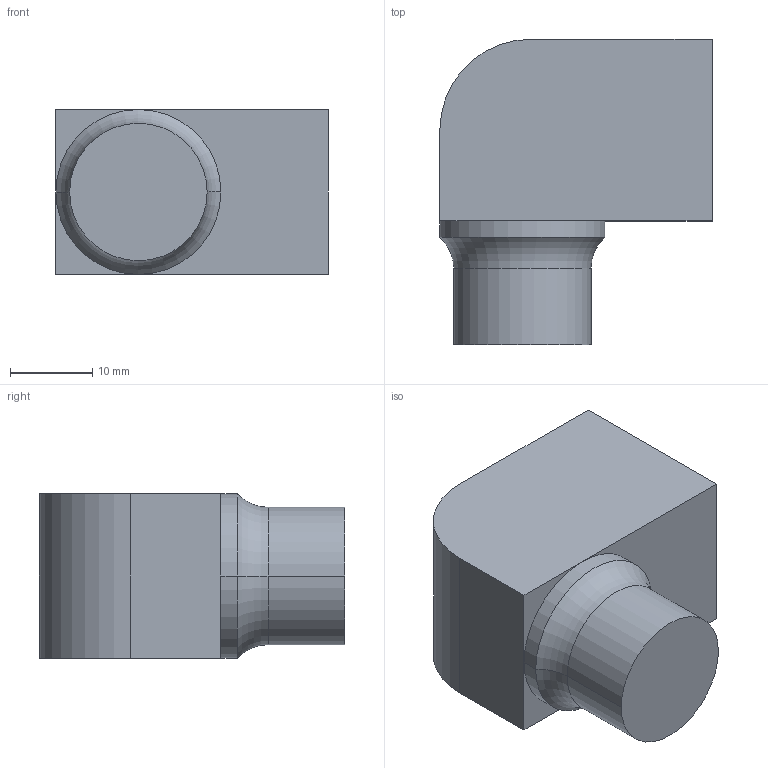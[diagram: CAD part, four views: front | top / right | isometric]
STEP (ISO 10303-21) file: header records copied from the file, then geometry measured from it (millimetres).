
FILE_DESCRIPTION (( 'STEP AP214' ), '1' );
FILE_NAME ('BR84-08.1152-90.STEP', '2020-06-23T08:41:13', ( '' ), ( '' ), 'SwSTEP 2.0', 'SolidWorks 2018', '' );
FILE_SCHEMA (( 'AUTOMOTIVE_DESIGN' ));
Length unit declared in the file: millimetre
Products named in the file (1): BR84-08.1152-90
Bounding box: 33 x 37 x 20 mm (x, y, z)
Volume: 17569.5 mm3; surface area: 4255.9 mm2
Topology: 1 solids, 1 shells, 16 faces, 34 edges, 20 vertices
Faces by surface type: plane 9, cylinder 5, torus 2
Entity records: 462 total; most frequent: DIRECTION 82, CARTESIAN_POINT 71, ORIENTED_EDGE 68, EDGE_CURVE 34, AXIS2_PLACEMENT_3D 31, VECTOR 20, LINE 20, VERTEX_POINT 20
